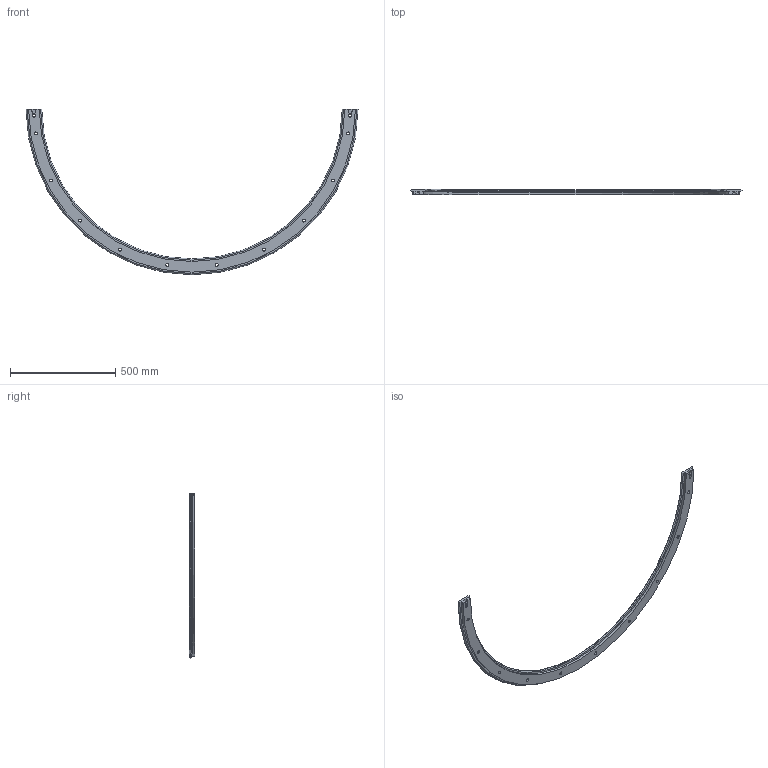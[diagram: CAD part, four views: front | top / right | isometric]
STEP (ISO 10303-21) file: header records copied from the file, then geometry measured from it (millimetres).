
FILE_DESCRIPTION( ( 'STEP AP203' ), '1' );
FILE_NAME( 'p:/temp/worker_25/temp/exporttempdir_4792_1030_kRHUu/format_0/TR76 1501 R180.stp', '2021-09-17T07:42:20', ( 'License CC BY-ND 4.0' ), ( 'CADENAS' ), ' ', 'PARTsolutions', ' ' );
FILE_SCHEMA( ( 'CONFIG_CONTROL_DESIGN' ) );
Length unit declared in the file: millimetre
Products named in the file (1): _TR76 1501 R180
Bounding box: 1575.95 x 24 x 785.48 mm (x, y, z)
Volume: 3139427.9 mm3; surface area: 493053.5 mm2
Topology: 1 solids, 1 shells, 98 faces, 231 edges, 155 vertices
Faces by surface type: plane 58, cylinder 34, cone 4, torus 2
Full cylindrical faces by diameter (mm): 8 x4, 14 x12, 20 x12
Entity records: 3048 total; most frequent: CARTESIAN_POINT 772, DIRECTION 454, ORIENTED_EDGE 400, EDGE_CURVE 200, AXIS2_PLACEMENT_3D 171, EDGE_LOOP 170, VERTEX_POINT 153, FACE_OUTER_BOUND 126
